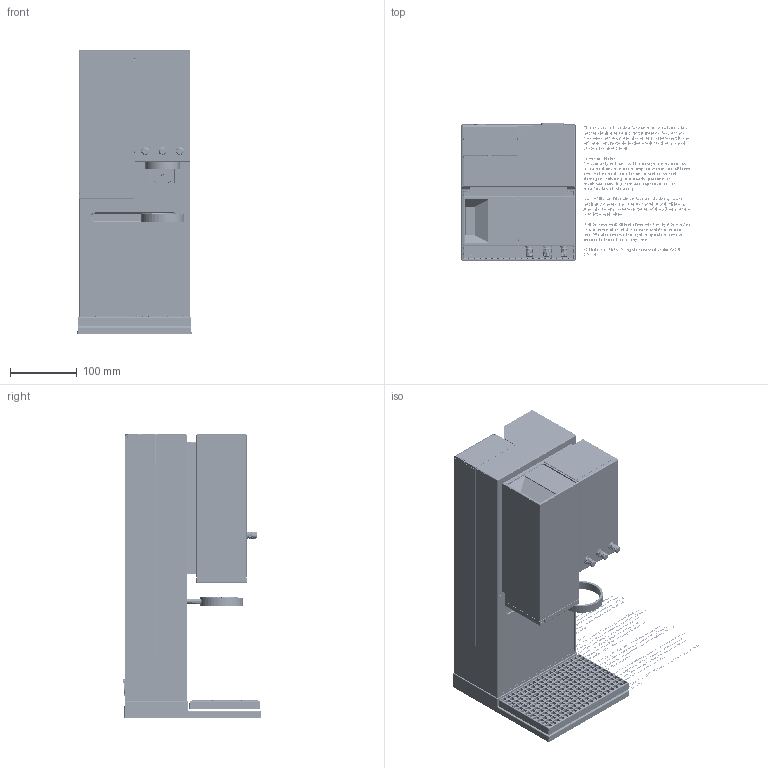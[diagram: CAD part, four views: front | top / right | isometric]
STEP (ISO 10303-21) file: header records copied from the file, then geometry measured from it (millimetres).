
FILE_DESCRIPTION(/* description */ (''),/* implementation_level */ '2;1');
FILE_NAME(/* name */ 'xbloom studio 3d model',/* time_stamp */ '2025-04-14T10:29:25+08:00',/* author */ (''),/* organization */ (''),/* preprocessor_version */ 'ST-DEVELOPER v19.2',/* originating_system */ 'Rhino 8.9',/* authorisation */ '');
FILE_SCHEMA (('CONFIG_CONTROL_DESIGN'));
Products named in the file (23): Document; 00; Block 05; 00_1_18_1; 00_1_17_1; Block 04; 00_1_16_1; Block 03; 00_1_15_1; Block 02; 00_1_14_1; 00_1_13_1; 00_1_12_1; Block 01; 00_1_10_1; 00_1_8_1; 00_1_7_1; 00_1_6_1; 00_1_5_1; 00_1_4_1; 00_1_3_1; 00_1_2_1; 00_1_1_1
Bounding box: 342.46 x 205.43 x 423.05 mm (x, y, z)
Volume: 7239738 mm3; surface area: 916465.9 mm2
Topology: 27 solids, 936 shells, 18873 faces, 52741 edges, 35003 vertices
Faces by surface type: bspline 10947, plane 5358, cylinder 2568
Entity records: 936109 total; most frequent: CARTESIAN_POINT 544445, ORIENTED_EDGE 98295, EDGE_CURVE 52660, B_SPLINE_CURVE_WITH_KNOTS 46265, VERTEX_POINT 35005, DIRECTION 20831, EDGE_LOOP 20008, ADVANCED_FACE 18872
